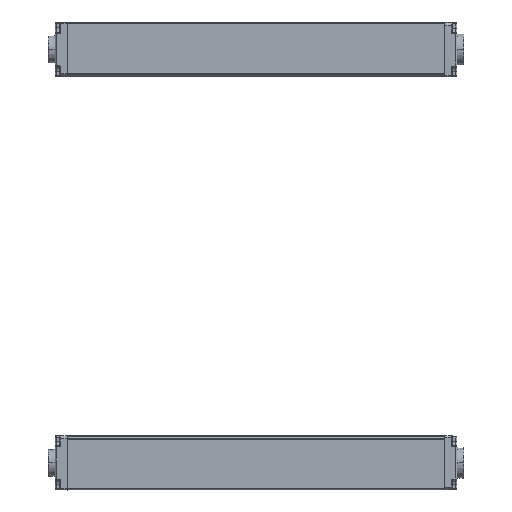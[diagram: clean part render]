
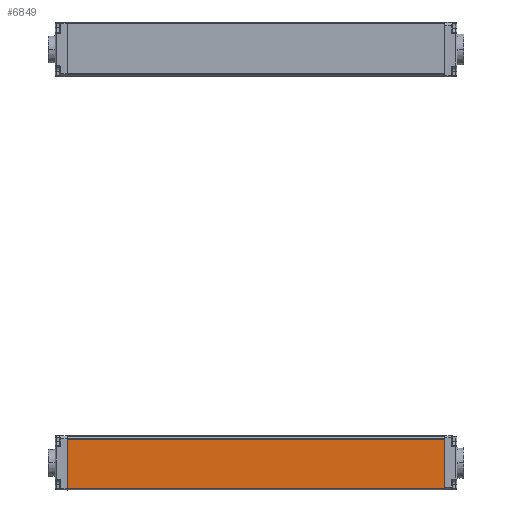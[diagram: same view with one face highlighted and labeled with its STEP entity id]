
A CAD part, left-side view. The second image highlights one B-rep face of the part: STEP entity #6849.
In plain terms, the highlighted planar face has unit normal (-1, 0, -0.009) as drawn and (1, 0, 0) by its records, which use the part's own axes.
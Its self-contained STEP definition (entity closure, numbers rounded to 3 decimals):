
#8 = VERTEX_POINT ( 'NONE', #3615 ) ;
#500 = VERTEX_POINT ( 'NONE', #9291 ) ;
#613 = PLANE ( 'NONE',  #17762 ) ;
#1052 = EDGE_CURVE ( 'NONE', #8, #10771, #1277, .T. ) ;
#1277 = LINE ( 'NONE', #6829, #13038 ) ;
#1509 = DIRECTION ( 'NONE',  ( 0., 1., 0. ) ) ;
#1826 = CARTESIAN_POINT ( 'NONE',  ( 15., 0., -16.9 ) ) ;
#3156 = EDGE_CURVE ( 'NONE', #500, #16808, #14274, .T. ) ;
#3615 = CARTESIAN_POINT ( 'NONE',  ( 15., 210., 10.9 ) ) ;
#4817 = VECTOR ( 'NONE', #16947, 1000. ) ;
#5866 = LINE ( 'NONE', #11397, #4817 ) ;
#6166 = CARTESIAN_POINT ( 'NONE',  ( 15., 210., -16.9 ) ) ;
#6624 = CARTESIAN_POINT ( 'NONE',  ( 15., 210., -16.693 ) ) ;
#6829 = CARTESIAN_POINT ( 'NONE',  ( 15., 210., -16.9 ) ) ;
#6849 = ADVANCED_FACE ( 'NONE', ( #13069 ), #613, .F. ) ;
#7367 = DIRECTION ( 'NONE',  ( 0., 0., -1. ) ) ;
#8432 = LINE ( 'NONE', #13981, #10856 ) ;
#8677 = ORIENTED_EDGE ( 'NONE', *, *, #15663, .T. ) ;
#8697 = ORIENTED_EDGE ( 'NONE', *, *, #1052, .F. ) ;
#8813 = VECTOR ( 'NONE', #7367, 1000. ) ;
#9291 = CARTESIAN_POINT ( 'NONE',  ( 15., 0., 10.9 ) ) ;
#10209 = ORIENTED_EDGE ( 'NONE', *, *, #13939, .T. ) ;
#10771 = VERTEX_POINT ( 'NONE', #6624 ) ;
#10856 = VECTOR ( 'NONE', #1509, 1000. ) ;
#11397 = CARTESIAN_POINT ( 'NONE',  ( 15., 210., 10.9 ) ) ;
#11704 = DIRECTION ( 'NONE',  ( -1., 0., 0. ) ) ;
#12353 = DIRECTION ( 'NONE',  ( 0., 0., -1. ) ) ;
#12793 = EDGE_LOOP ( 'NONE', ( #16482, #10209, #8697, #8677 ) ) ;
#13038 = VECTOR ( 'NONE', #12353, 1000. ) ;
#13069 = FACE_OUTER_BOUND ( 'NONE', #12793, .T. ) ;
#13939 = EDGE_CURVE ( 'NONE', #16808, #10771, #8432, .T. ) ;
#13981 = CARTESIAN_POINT ( 'NONE',  ( 15., 210., -16.693 ) ) ;
#14274 = LINE ( 'NONE', #1826, #8813 ) ;
#15663 = EDGE_CURVE ( 'NONE', #8, #500, #5866, .T. ) ;
#16482 = ORIENTED_EDGE ( 'NONE', *, *, #3156, .T. ) ;
#16808 = VERTEX_POINT ( 'NONE', #17507 ) ;
#16947 = DIRECTION ( 'NONE',  ( 0., -1., 0. ) ) ;
#17256 = DIRECTION ( 'NONE',  ( 0., 0., 1. ) ) ;
#17507 = CARTESIAN_POINT ( 'NONE',  ( 15., 0., -16.693 ) ) ;
#17762 = AXIS2_PLACEMENT_3D ( 'NONE', #6166, #11704, #17256 ) ;
